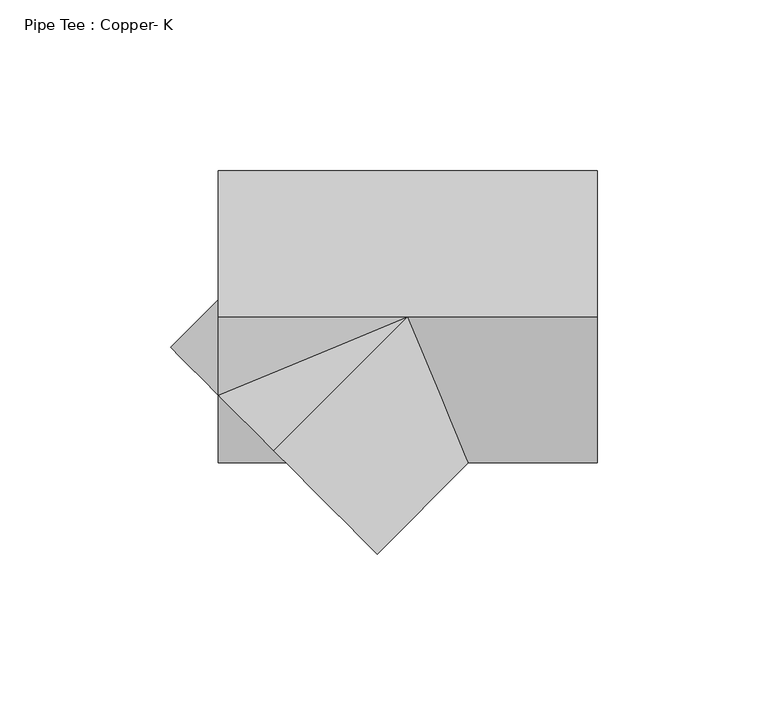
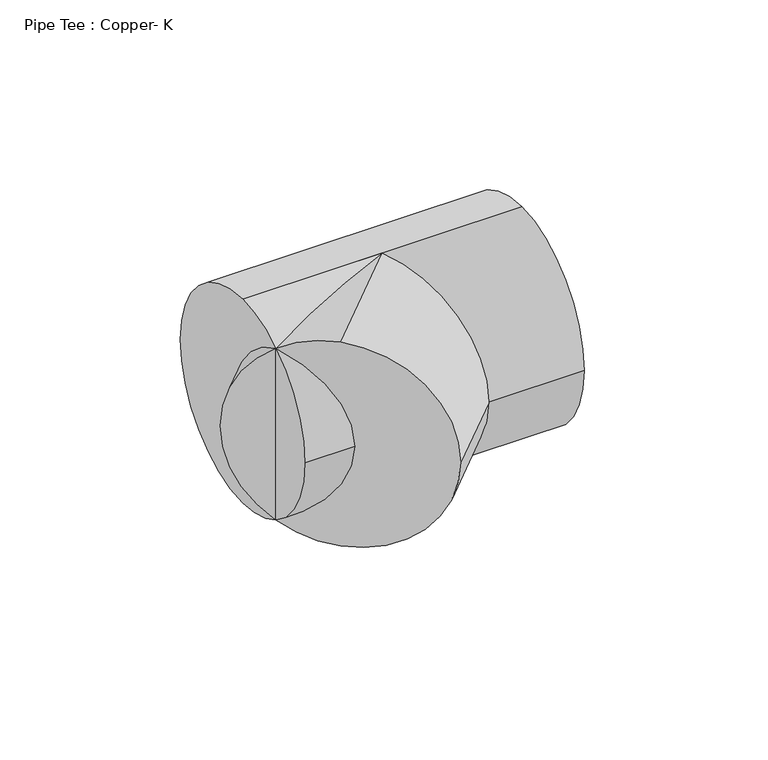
"""IFC4 building model written with IfcOpenShell, lengths in millimetres: pipe fitting geometry, Pipe Tee : Copper- K."""

from ifc_helpers import new_model, si_unit, frame, origin, place, context, project, spatial, circle_curve, ellipse_curve, source, transform, mapped, element, save
from ifc_brep_helpers import plane_surface, cylinder_surface, advanced_brep


def pipe_tee_copper_k_e3b6c8a8(model_context):
    return source(origin(), model_context, "Body", "AdvancedBrep", [
        advanced_brep(
        [(-55.5625, 0.0, 42.8625), (-55.5625, 42.8625, 0.0), (-55.5625, 0.0, -42.8625), (-55.5625, -23.0147411, -36.1595852), (-55.5625, 5.0542288, 0.0), (-55.5625, -23.0147411, 36.1595852), (-55.5625, -42.8625, 0.0), (55.5625, 0.0, 42.8625), (55.5625, -42.8625, 0.0), (55.5625, 0.0, -42.8625), (55.5625, 42.8625, 0.0), (0.0, 0.0, 42.8625), (0.0, 0.0, -42.8625), (17.7542288, -42.8625, 0.0), (-35.7147411, -42.8625, 0.0), (-39.2886205, -39.2886205, -42.8625), (-8.9802561, -69.5969849, 0.0), (-39.2886205, -39.2886205, 42.8625), (-69.5969849, -8.9802561, 0.0)],
        [
            (0, 1, circle_curve(frame((-55.5625, 0.0, 0.0), z_axis=(-1.0, 0.0, 0.0), x_axis=(0.0, 1.0, 0.0)), 42.8625)),
            (1, 2, circle_curve(frame((-55.5625, 0.0, 0.0), z_axis=(-1.0, 0.0, 0.0), x_axis=(0.0, 1.0, 0.0)), 42.8625)),
            (2, 3, circle_curve(frame((-55.5625, 0.0, 0.0), z_axis=(-1.0, 0.0, 0.0), x_axis=(0.0, 1.0, 0.0)), 42.8625)),
            (3, 4, ellipse_curve(frame((-55.5625, -55.5625, 0.0), z_axis=(1.0, 0.0, 0.0), x_axis=(0.0, 1.0, 0.0)), 60.6167288, 42.8625)),
            (4, 5, ellipse_curve(frame((-55.5625, -55.5625, 0.0), z_axis=(1.0, 0.0, 0.0), x_axis=(0.0, 1.0, 0.0)), 60.6167288, 42.8625)),
            (5, 0, circle_curve(frame((-55.5625, 0.0, 0.0), z_axis=(-1.0, 0.0, 0.0), x_axis=(0.0, 1.0, 0.0)), 42.8625)),
            (3, 6, circle_curve(frame((-55.5625, 0.0, 0.0), z_axis=(-1.0, 0.0, 0.0), x_axis=(0.0, 1.0, 0.0)), 42.8625)),
            (6, 5, circle_curve(frame((-55.5625, 0.0, 0.0), z_axis=(-1.0, 0.0, 0.0), x_axis=(0.0, 1.0, 0.0)), 42.8625)),
            (5, 3),
            (7, 8, circle_curve(frame((55.5625, 0.0, 0.0), z_axis=(1.0, 0.0, 0.0), x_axis=(0.0, 1.0, 0.0)), 42.8625)),
            (8, 9, circle_curve(frame((55.5625, 0.0, 0.0), z_axis=(1.0, 0.0, 0.0), x_axis=(0.0, 1.0, 0.0)), 42.8625)),
            (9, 10, circle_curve(frame((55.5625, 0.0, 0.0), z_axis=(1.0, 0.0, 0.0), x_axis=(0.0, 1.0, 0.0)), 42.8625)),
            (10, 7, circle_curve(frame((55.5625, 0.0, 0.0), z_axis=(1.0, 0.0, 0.0), x_axis=(0.0, 1.0, 0.0)), 42.8625)),
            (0, 11),
            (11, 7),
            (10, 1),
            (9, 12),
            (12, 2),
            (8, 13),
            (13, 12, ellipse_curve(frame((0.0, 0.0, 0.0), z_axis=(0.9238795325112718, 0.38268343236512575, 0.0), x_axis=(-0.3826834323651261, 0.9238795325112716, 0.0)), 46.3940357, 42.8625)),
            (12, 3, ellipse_curve(frame((0.0, 0.0, 0.0), z_axis=(-0.3826834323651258, 0.9238795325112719, 0.0), x_axis=(-0.9238795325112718, -0.3826834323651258, 0.0)), 112.0051102, 42.8625)),
            (3, 14, ellipse_curve(frame((-78.5772411, 0.0, 0.0), z_axis=(-0.7071067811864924, -0.7071067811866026, 0.0), x_axis=(-0.7071067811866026, 0.7071067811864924, 0.0)), 60.6167288, 42.8625)),
            (14, 6),
            (11, 13, ellipse_curve(frame((0.0, 0.0, 0.0), z_axis=(0.9238795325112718, 0.38268343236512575, 0.0), x_axis=(-0.3826834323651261, 0.9238795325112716, 0.0)), 46.3940357, 42.8625)),
            (5, 11, ellipse_curve(frame((0.0, 0.0, 0.0), z_axis=(-0.3826834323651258, 0.9238795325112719, 0.0), x_axis=(-0.9238795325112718, -0.3826834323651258, 0.0)), 112.0051102, 42.8625)),
            (14, 5, ellipse_curve(frame((-78.5772411, 0.0, 0.0), z_axis=(-0.7071067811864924, -0.7071067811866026, 0.0), x_axis=(-0.7071067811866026, 0.7071067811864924, 0.0)), 60.6167288, 42.8625)),
            (15, 16, circle_curve(frame((-39.2886205, -39.2886205, 0.0), z_axis=(-0.7071067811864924, -0.7071067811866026, 0.0), x_axis=(0.7071067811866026, -0.7071067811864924, 0.0)), 42.8625)),
            (16, 17, circle_curve(frame((-39.2886205, -39.2886205, 0.0), z_axis=(-0.7071067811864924, -0.7071067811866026, 0.0), x_axis=(0.7071067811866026, -0.7071067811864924, 0.0)), 42.8625)),
            (17, 5, circle_curve(frame((-39.2886205, -39.2886205, 0.0), z_axis=(-0.7071067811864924, -0.7071067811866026, 0.0), x_axis=(0.7071067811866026, -0.7071067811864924, 0.0)), 42.8625)),
            (3, 15, circle_curve(frame((-39.2886205, -39.2886205, 0.0), z_axis=(-0.7071067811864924, -0.7071067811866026, 0.0), x_axis=(0.7071067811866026, -0.7071067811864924, 0.0)), 42.8625)),
            (18, 3, circle_curve(frame((-39.2886205, -39.2886205, 0.0), z_axis=(-0.7071067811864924, -0.7071067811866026, 0.0), x_axis=(0.7071067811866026, -0.7071067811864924, 0.0)), 42.8625)),
            (5, 18, circle_curve(frame((-39.2886205, -39.2886205, 0.0), z_axis=(-0.7071067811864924, -0.7071067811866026, 0.0), x_axis=(0.7071067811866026, -0.7071067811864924, 0.0)), 42.8625)),
            (16, 13),
            (11, 17),
            (15, 12),
            (18, 4),
        ],
        [
            plane_surface(frame((-55.5625, 0.0, 0.0), z_axis=(-1.0, 0.0, 0.0), x_axis=(0.0, 0.0, 1.0))),
            plane_surface(frame((55.5625, 0.0, 0.0), z_axis=(1.0, 0.0, 0.0), x_axis=(0.0, 0.0, 1.0))),
            cylinder_surface(frame((-55.5625, 0.0, 0.0), z_axis=(-1.0, 0.0, 0.0), x_axis=(0.0, 1.0, 0.0)), 42.8625),
            plane_surface(frame((-39.2886205, -39.2886205, 0.0), z_axis=(-0.7071067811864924, -0.7071067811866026, 0.0), x_axis=(0.0, 0.0, 1.0))),
            cylinder_surface(frame((0.0, 0.0, 0.0), z_axis=(0.7071067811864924, 0.7071067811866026, 0.0), x_axis=(0.7071067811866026, -0.7071067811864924, 0.0)), 42.8625),
        ],
        [
            (0, [[1, 2, 3, 4, 5, 6]]),
            (0, [[7, 8, 9]]),
            (1, [[10, 11, 12, 13]]),
            (2, [[-1, 14, 15, -13, 16]]),
            (2, [[-2, -16, -12, 17, 18]]),
            (2, [[-11, 19, 20, -17]]),
            (2, [[-3, -18, 21]]),
            (2, [[-7, 22, 23]]),
            (2, [[-10, -15, 24, -19]]),
            (2, [[-6, 25, -14]]),
            (2, [[-8, -23, 26]]),
            (3, [[27, 28, 29, -26, -22, 30]]),
            (3, [[31, -9, 32]]),
            (4, [[-28, 33, -24, 34]]),
            (4, [[-27, 35, -20, -33]]),
            (4, [[-35, -30, -21]]),
            (4, [[-31, 36, -4]]),
            (4, [[-34, -25, -29]]),
            (4, [[-32, -5, -36]]),
        ],
    ),
        advanced_brep(
        [(-55.5625, 0.0, 42.8625), (-55.5625, 42.8625, 0.0), (-55.5625, 0.0, -42.8625), (-55.5625, -23.0147411, -36.1595852), (-55.5625, 5.0542288, 0.0), (-55.5625, -23.0147411, 36.1595852), (-55.5625, -42.8625, 0.0), (55.5625, 0.0, 42.8625), (55.5625, -42.8625, 0.0), (55.5625, 0.0, -42.8625), (55.5625, 42.8625, 0.0), (0.0, 0.0, 42.8625), (0.0, 0.0, -42.8625), (17.7542288, -42.8625, 0.0), (-35.7147411, -42.8625, 0.0), (-39.2886205, -39.2886205, -42.8625), (-8.9802561, -69.5969849, 0.0), (-39.2886205, -39.2886205, 42.8625), (-69.5969849, -8.9802561, 0.0)],
        [
            (0, 1, circle_curve(frame((-55.5625, 0.0, 0.0), z_axis=(-1.0, 0.0, 0.0), x_axis=(0.0, 1.0, 0.0)), 42.8625)),
            (1, 2, circle_curve(frame((-55.5625, 0.0, 0.0), z_axis=(-1.0, 0.0, 0.0), x_axis=(0.0, 1.0, 0.0)), 42.8625)),
            (2, 3, circle_curve(frame((-55.5625, 0.0, 0.0), z_axis=(-1.0, 0.0, 0.0), x_axis=(0.0, 1.0, 0.0)), 42.8625)),
            (3, 4, ellipse_curve(frame((-55.5625, -55.5625, 0.0), z_axis=(1.0, 0.0, 0.0), x_axis=(0.0, 1.0, 0.0)), 60.6167288, 42.8625)),
            (4, 5, ellipse_curve(frame((-55.5625, -55.5625, 0.0), z_axis=(1.0, 0.0, 0.0), x_axis=(0.0, 1.0, 0.0)), 60.6167288, 42.8625)),
            (5, 0, circle_curve(frame((-55.5625, 0.0, 0.0), z_axis=(-1.0, 0.0, 0.0), x_axis=(0.0, 1.0, 0.0)), 42.8625)),
            (3, 6, circle_curve(frame((-55.5625, 0.0, 0.0), z_axis=(-1.0, 0.0, 0.0), x_axis=(0.0, 1.0, 0.0)), 42.8625)),
            (6, 5, circle_curve(frame((-55.5625, 0.0, 0.0), z_axis=(-1.0, 0.0, 0.0), x_axis=(0.0, 1.0, 0.0)), 42.8625)),
            (5, 3),
            (7, 8, circle_curve(frame((55.5625, 0.0, 0.0), z_axis=(1.0, 0.0, 0.0), x_axis=(0.0, 1.0, 0.0)), 42.8625)),
            (8, 9, circle_curve(frame((55.5625, 0.0, 0.0), z_axis=(1.0, 0.0, 0.0), x_axis=(0.0, 1.0, 0.0)), 42.8625)),
            (9, 10, circle_curve(frame((55.5625, 0.0, 0.0), z_axis=(1.0, 0.0, 0.0), x_axis=(0.0, 1.0, 0.0)), 42.8625)),
            (10, 7, circle_curve(frame((55.5625, 0.0, 0.0), z_axis=(1.0, 0.0, 0.0), x_axis=(0.0, 1.0, 0.0)), 42.8625)),
            (0, 11),
            (11, 7),
            (10, 1),
            (9, 12),
            (12, 2),
            (8, 13),
            (13, 12, ellipse_curve(frame((0.0, 0.0, 0.0), z_axis=(0.9238795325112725, 0.3826834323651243, 0.0), x_axis=(-0.382683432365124, 0.9238795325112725, 0.0)), 46.3940357, 42.8625)),
            (12, 3, ellipse_curve(frame((0.0, 0.0, 0.0), z_axis=(-0.3826834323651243, 0.9238795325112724, 0.0), x_axis=(-0.9238795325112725, -0.38268343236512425, 0.0)), 112.0051102, 42.8625)),
            (3, 14, ellipse_curve(frame((-78.5772411, 0.0, 0.0), z_axis=(-0.7071067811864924, -0.7071067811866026, 0.0), x_axis=(-0.7071067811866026, 0.7071067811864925, 0.0)), 60.6167288, 42.8625)),
            (14, 6),
            (11, 13, ellipse_curve(frame((0.0, 0.0, 0.0), z_axis=(0.9238795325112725, 0.3826834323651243, 0.0), x_axis=(-0.382683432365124, 0.9238795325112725, 0.0)), 46.3940357, 42.8625)),
            (5, 11, ellipse_curve(frame((0.0, 0.0, 0.0), z_axis=(-0.3826834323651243, 0.9238795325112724, 0.0), x_axis=(-0.9238795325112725, -0.38268343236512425, 0.0)), 112.0051102, 42.8625)),
            (14, 5, ellipse_curve(frame((-78.5772411, 0.0, 0.0), z_axis=(-0.7071067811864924, -0.7071067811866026, 0.0), x_axis=(-0.7071067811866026, 0.7071067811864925, 0.0)), 60.6167288, 42.8625)),
            (15, 16, circle_curve(frame((-39.2886205, -39.2886205, 0.0), z_axis=(-0.7071067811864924, -0.7071067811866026, 0.0), x_axis=(0.7071067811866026, -0.7071067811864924, 0.0)), 42.8625)),
            (16, 17, circle_curve(frame((-39.2886205, -39.2886205, 0.0), z_axis=(-0.7071067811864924, -0.7071067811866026, 0.0), x_axis=(0.7071067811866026, -0.7071067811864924, 0.0)), 42.8625)),
            (17, 5, circle_curve(frame((-39.2886205, -39.2886205, 0.0), z_axis=(-0.7071067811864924, -0.7071067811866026, 0.0), x_axis=(0.7071067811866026, -0.7071067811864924, 0.0)), 42.8625)),
            (3, 15, circle_curve(frame((-39.2886205, -39.2886205, 0.0), z_axis=(-0.7071067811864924, -0.7071067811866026, 0.0), x_axis=(0.7071067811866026, -0.7071067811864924, 0.0)), 42.8625)),
            (18, 3, circle_curve(frame((-39.2886205, -39.2886205, 0.0), z_axis=(-0.7071067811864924, -0.7071067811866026, 0.0), x_axis=(0.7071067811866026, -0.7071067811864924, 0.0)), 42.8625)),
            (5, 18, circle_curve(frame((-39.2886205, -39.2886205, 0.0), z_axis=(-0.7071067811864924, -0.7071067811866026, 0.0), x_axis=(0.7071067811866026, -0.7071067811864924, 0.0)), 42.8625)),
            (16, 13),
            (11, 17),
            (15, 12),
            (18, 4),
        ],
        [
            plane_surface(frame((-55.5625, 0.0, 0.0), z_axis=(-1.0, 0.0, 0.0), x_axis=(0.0, 0.0, 1.0))),
            plane_surface(frame((55.5625, 0.0, 0.0), z_axis=(1.0, 0.0, 0.0), x_axis=(0.0, 0.0, 1.0))),
            cylinder_surface(frame((-55.5625, 0.0, 0.0), z_axis=(-1.0, 0.0, 0.0), x_axis=(0.0, 1.0, 0.0)), 42.8625),
            plane_surface(frame((-39.2886205, -39.2886205, 0.0), z_axis=(-0.7071067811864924, -0.7071067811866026, 0.0), x_axis=(0.0, 0.0, 1.0))),
            cylinder_surface(frame((0.0, 0.0, 0.0), z_axis=(0.7071067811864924, 0.7071067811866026, 0.0), x_axis=(0.7071067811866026, -0.7071067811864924, 0.0)), 42.8625),
        ],
        [
            (0, [[1, 2, 3, 4, 5, 6]]),
            (0, [[7, 8, 9]]),
            (1, [[10, 11, 12, 13]]),
            (2, [[-1, 14, 15, -13, 16]]),
            (2, [[-2, -16, -12, 17, 18]]),
            (2, [[-11, 19, 20, -17]]),
            (2, [[-3, -18, 21]]),
            (2, [[-7, 22, 23]]),
            (2, [[-10, -15, 24, -19]]),
            (2, [[-6, 25, -14]]),
            (2, [[-8, -23, 26]]),
            (3, [[27, 28, 29, -26, -22, 30]]),
            (3, [[31, -9, 32]]),
            (4, [[-28, 33, -24, 34]]),
            (4, [[-27, 35, -20, -33]]),
            (4, [[-35, -30, -21]]),
            (4, [[-31, 36, -4]]),
            (4, [[-34, -25, -29]]),
            (4, [[-32, -5, -36]]),
        ],
    ),
    ])


if __name__ == "__main__":
    model = new_model("IFC4")
    model_context = context("Model", 3, world=origin())
    ifc_project = project(units=[si_unit("LENGTHUNIT", "METRE", prefix="MILLI")], contexts=[model_context])
    site = spatial("IfcSite", under=ifc_project)
    building = spatial("IfcBuilding", under=site)
    placement = place(None, origin())
    pipe_tee_copper_k_shape = pipe_tee_copper_k_e3b6c8a8(model_context)
    element("IfcPipeFitting", 1, ObjectType="Pipe Tee : Copper- K", at=placement, inside=building, context=model_context, shape_type="MappedRepresentation", body=[
        mapped(pipe_tee_copper_k_shape, transform((0.0, 0.0, 0.0), x_axis=(1.0, 0.0, 0.0), y_axis=(0.0, 1.0, 0.0), z_axis=(0.0, 0.0, 1.0))),
    ])
    save(model, "model.ifc")
